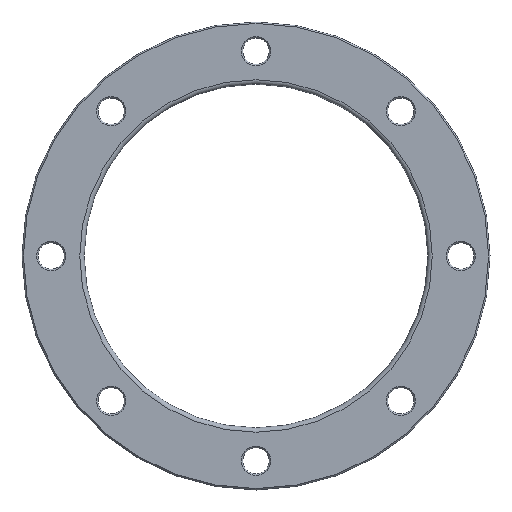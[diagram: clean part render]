
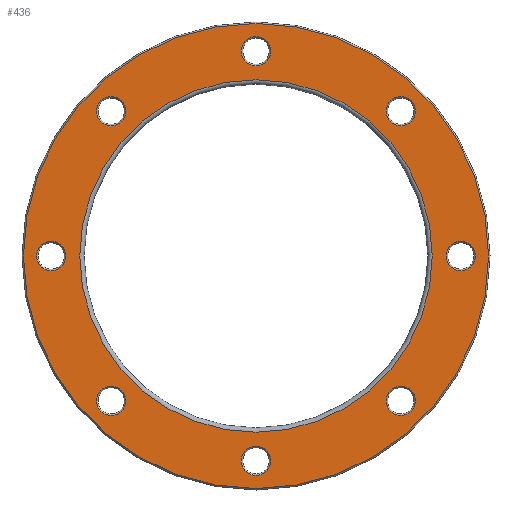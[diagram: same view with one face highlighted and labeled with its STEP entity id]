
A CAD part, front view. The second image highlights one B-rep face of the part: STEP entity #436.
In plain terms, the highlighted planar face has unit normal (0, -1, 0).
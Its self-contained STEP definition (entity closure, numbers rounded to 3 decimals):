
#23=PLANE('',#516);
#98=ORIENTED_EDGE('',*,*,#157,.T.);
#99=ORIENTED_EDGE('',*,*,#158,.T.);
#100=ORIENTED_EDGE('',*,*,#124,.T.);
#101=ORIENTED_EDGE('',*,*,#128,.T.);
#102=ORIENTED_EDGE('',*,*,#132,.T.);
#103=ORIENTED_EDGE('',*,*,#136,.T.);
#104=ORIENTED_EDGE('',*,*,#140,.T.);
#105=ORIENTED_EDGE('',*,*,#144,.T.);
#106=ORIENTED_EDGE('',*,*,#148,.T.);
#107=ORIENTED_EDGE('',*,*,#159,.T.);
#124=EDGE_CURVE('',#164,#164,#204,.T.);
#128=EDGE_CURVE('',#168,#168,#208,.T.);
#132=EDGE_CURVE('',#172,#172,#212,.T.);
#136=EDGE_CURVE('',#176,#176,#216,.T.);
#140=EDGE_CURVE('',#180,#180,#220,.T.);
#144=EDGE_CURVE('',#184,#184,#224,.T.);
#148=EDGE_CURVE('',#188,#188,#228,.T.);
#157=EDGE_CURVE('',#197,#197,#237,.F.);
#158=EDGE_CURVE('',#198,#198,#238,.T.);
#159=EDGE_CURVE('',#199,#199,#239,.T.);
#164=VERTEX_POINT('',#683);
#168=VERTEX_POINT('',#694);
#172=VERTEX_POINT('',#705);
#176=VERTEX_POINT('',#716);
#180=VERTEX_POINT('',#727);
#184=VERTEX_POINT('',#738);
#188=VERTEX_POINT('',#749);
#197=VERTEX_POINT('',#772);
#198=VERTEX_POINT('',#774);
#199=VERTEX_POINT('',#776);
#204=CIRCLE('',#461,10.);
#208=CIRCLE('',#468,10.);
#212=CIRCLE('',#475,10.);
#216=CIRCLE('',#482,10.);
#220=CIRCLE('',#489,10.);
#224=CIRCLE('',#496,10.);
#228=CIRCLE('',#503,10.);
#237=CIRCLE('',#517,159.);
#238=CIRCLE('',#518,120.5);
#239=CIRCLE('',#519,10.);
#298=EDGE_LOOP('',(#98));
#299=EDGE_LOOP('',(#99));
#300=EDGE_LOOP('',(#100));
#301=EDGE_LOOP('',(#101));
#302=EDGE_LOOP('',(#102));
#303=EDGE_LOOP('',(#103));
#304=EDGE_LOOP('',(#104));
#305=EDGE_LOOP('',(#105));
#306=EDGE_LOOP('',(#106));
#307=EDGE_LOOP('',(#107));
#378=FACE_BOUND('',#298,.T.);
#379=FACE_BOUND('',#299,.T.);
#380=FACE_BOUND('',#300,.T.);
#381=FACE_BOUND('',#301,.T.);
#382=FACE_BOUND('',#302,.T.);
#383=FACE_BOUND('',#303,.T.);
#384=FACE_BOUND('',#304,.T.);
#385=FACE_BOUND('',#305,.T.);
#386=FACE_BOUND('',#306,.T.);
#387=FACE_BOUND('',#307,.T.);
#436=ADVANCED_FACE('',(#378,#379,#380,#381,#382,#383,#384,#385,#386,#387),
#23,.F.);
#461=AXIS2_PLACEMENT_3D('',#682,#539,#540);
#468=AXIS2_PLACEMENT_3D('',#693,#553,#554);
#475=AXIS2_PLACEMENT_3D('',#704,#567,#568);
#482=AXIS2_PLACEMENT_3D('',#715,#581,#582);
#489=AXIS2_PLACEMENT_3D('',#726,#595,#596);
#496=AXIS2_PLACEMENT_3D('',#737,#609,#610);
#503=AXIS2_PLACEMENT_3D('',#748,#623,#624);
#516=AXIS2_PLACEMENT_3D('',#770,#649,#650);
#517=AXIS2_PLACEMENT_3D('',#771,#651,#652);
#518=AXIS2_PLACEMENT_3D('',#773,#653,#654);
#519=AXIS2_PLACEMENT_3D('',#775,#655,#656);
#539=DIRECTION('',(0.,1.,0.));
#540=DIRECTION('',(0.707,0.,0.707));
#553=DIRECTION('',(0.,1.,0.));
#554=DIRECTION('',(0.,0.,1.));
#567=DIRECTION('',(0.,1.,0.));
#568=DIRECTION('',(-0.707,0.,0.707));
#581=DIRECTION('',(0.,1.,0.));
#582=DIRECTION('',(-1.,0.,0.));
#595=DIRECTION('',(0.,1.,0.));
#596=DIRECTION('',(-0.707,0.,-0.707));
#609=DIRECTION('',(0.,1.,0.));
#610=DIRECTION('',(0.,0.,-1.));
#623=DIRECTION('',(0.,1.,0.));
#624=DIRECTION('',(0.707,0.,-0.707));
#649=DIRECTION('',(0.,1.,0.));
#650=DIRECTION('',(0.,0.,1.));
#651=DIRECTION('',(0.,1.,0.));
#652=DIRECTION('',(0.,0.,1.));
#653=DIRECTION('',(0.,1.,0.));
#654=DIRECTION('',(0.,0.,1.));
#655=DIRECTION('',(0.,1.,0.));
#656=DIRECTION('',(1.,0.,0.));
#682=CARTESIAN_POINT('',(-98.995,0.,98.995));
#683=CARTESIAN_POINT('',(-91.924,0.,106.066));
#693=CARTESIAN_POINT('',(-140.,0.,0.));
#694=CARTESIAN_POINT('',(-140.,0.,10.));
#704=CARTESIAN_POINT('',(-98.995,0.,-98.995));
#705=CARTESIAN_POINT('',(-106.066,0.,-91.924));
#715=CARTESIAN_POINT('',(0.,0.,-140.));
#716=CARTESIAN_POINT('',(-10.,0.,-140.));
#726=CARTESIAN_POINT('',(98.995,0.,-98.995));
#727=CARTESIAN_POINT('',(91.924,0.,-106.066));
#737=CARTESIAN_POINT('',(140.,0.,0.));
#738=CARTESIAN_POINT('',(140.,0.,-10.));
#748=CARTESIAN_POINT('',(98.995,0.,98.995));
#749=CARTESIAN_POINT('',(106.066,0.,91.924));
#770=CARTESIAN_POINT('',(0.,0.,0.));
#771=CARTESIAN_POINT('',(0.,0.,0.));
#772=CARTESIAN_POINT('',(0.,0.,159.));
#773=CARTESIAN_POINT('',(0.,0.,0.));
#774=CARTESIAN_POINT('',(0.,0.,120.5));
#775=CARTESIAN_POINT('',(0.,0.,140.));
#776=CARTESIAN_POINT('',(10.,0.,140.));
